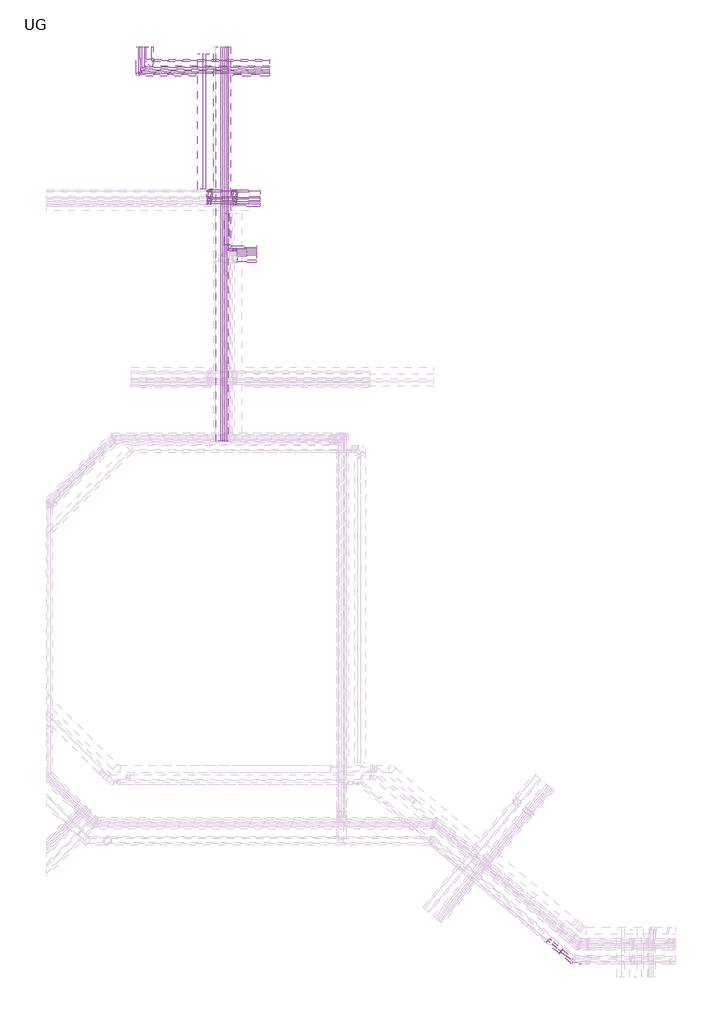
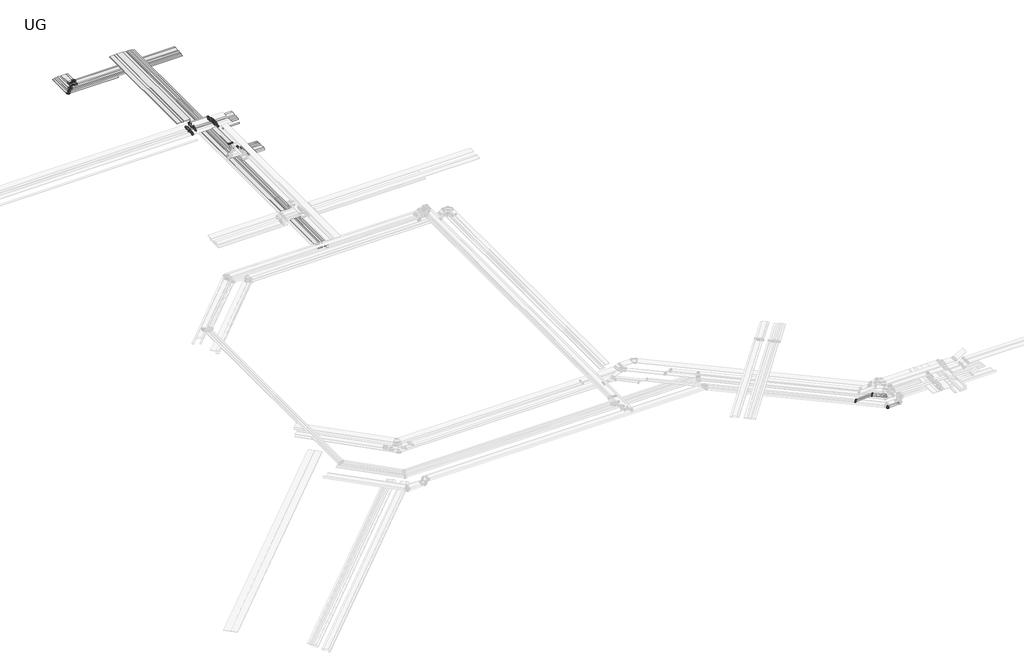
# One storey, part 6 of 14: 66 cable carrier segments, 41 cable carrier fittings.
"""IFC4 building model written with IfcOpenShell, lengths in millimetres."""

from ifc_helpers import new_model, si_unit, frame, origin, place, context, project, spatial, polyline, outline, extrude, transform, mapped, element, save
from components import cable_tray_horizontal_bend_c1312258, cable_tray_horizontal_bend_6035e229, cable_tray_horizontal_bend_3927de18, cable_tray_horizontal_bend_f58777bf, cable_tray_horizontal_bend_203efda3, cable_tray_vertical_inside_bend_327bc21f, cable_tray_vertical_inside_bend_de01723b, cable_tray_vertical_outside_bend_a3d3d836, cable_tray_vertical_outside_bend_fceaed45, cable_tray_vertical_outside_bend_b6a104fe, cable_tray_vertical_outside_bend_665fa45d

model = new_model("IFC4")

# Units and contexts
model_context = context("Model", 3, world=origin())
ifc_project = project(units=[si_unit("LENGTHUNIT", "METRE", prefix="MILLI")], contexts=[model_context])

# Site, building, storey
site = spatial("IfcSite", under=ifc_project)
building = spatial("IfcBuilding", under=site)
storey = spatial("IfcBuildingStorey", under=building, Name="UG", Elevation=7925.0)

# Cable carrier fittings
placement = place(None, origin())
cable_tray_horizontal_bend_shape = cable_tray_horizontal_bend_c1312258(model_context)
element("IfcCableCarrierFitting", 1, ObjectType="Cable Tray Horizontal Bend : ELEC_ELV_TKG_N2402", at=placement, inside=storey, context=model_context, shape_type="MappedRepresentation", body=[
    mapped(cable_tray_horizontal_bend_shape, transform((95888.1946429, 98224.9999992, 12425.0), x_axis=(0.0, -1.0, 0.0), y_axis=(1.0, 0.0, 0.0), z_axis=(0.0, 0.0, 1.0))),
])
element("IfcCableCarrierFitting", 2, ObjectType="Cable Tray Horizontal Bend : ELEC_ELV_TKG_N2402", at=placement, inside=storey, context=model_context, shape_type="MappedRepresentation", body=[
    mapped(cable_tray_horizontal_bend_shape, transform((95538.1946429, 97874.9999992, 12425.0), x_axis=(0.0, -1.0, 0.0), y_axis=(1.0, 0.0, 0.0), z_axis=(0.0, 0.0, 1.0))),
])
element("IfcCableCarrierFitting", 3, ObjectType="Cable Tray Horizontal Bend : ELEC_ELV_TKG_N2402", at=placement, inside=storey, context=model_context, shape_type="MappedRepresentation", body=[
    mapped(cable_tray_horizontal_bend_shape, transform((95388.1946429, 97724.9999992, 12425.0), x_axis=(0.0, -1.0, 0.0), y_axis=(1.0, 0.0, 0.0), z_axis=(0.0, 0.0, 1.0))),
])
cable_tray_horizontal_bend_2_shape = cable_tray_horizontal_bend_6035e229(model_context)
element("IfcCableCarrierFitting", 4, ObjectType="Cable Tray Horizontal Bend : ELEC_ELV_TKG_N2402", at=placement, inside=storey, context=model_context, shape_type="MappedRepresentation", body=[
    mapped(cable_tray_horizontal_bend_2_shape, transform((96513.1946429, 98849.9999992, 12450.0), x_axis=(0.0, -1.0, 0.0), y_axis=(1.0, 0.0, 0.0), z_axis=(0.0, 0.0, 1.0))),
])
element("IfcCableCarrierFitting", 5, ObjectType="Cable Tray Horizontal Bend : ELEC_ELV_TKG_N2402", at=placement, inside=storey, context=model_context, shape_type="MappedRepresentation", body=[
    mapped(cable_tray_horizontal_bend_2_shape, transform((95713.1946429, 98049.9999992, 12450.0), x_axis=(0.0, -1.0, 0.0), y_axis=(1.0, 0.0, 0.0), z_axis=(0.0, 0.0, 1.0))),
])
cable_tray_horizontal_bend_3_shape = cable_tray_horizontal_bend_3927de18(model_context)
element("IfcCableCarrierFitting", 6, ObjectType="Cable Tray Horizontal Bend : ELEC_ELV_CT_N2402", at=placement, inside=storey, context=model_context, shape_type="MappedRepresentation", body=[
    mapped(cable_tray_horizontal_bend_3_shape, transform((95213.1946429, 97549.9999992, 12400.0), x_axis=(0.0, -1.0, 0.0), y_axis=(1.0, 0.0, 0.0), z_axis=(0.0, 0.0, 1.0))),
])
cable_tray_horizontal_bend_4_shape = cable_tray_horizontal_bend_f58777bf(model_context)
element("IfcCableCarrierFitting", 7, ObjectType="Cable Tray Horizontal Bend : ELEC_ELV_TKG_N2402", at=placement, inside=storey, context=model_context, shape_type="MappedRepresentation", body=[
    mapped(cable_tray_horizontal_bend_4_shape, transform((96188.1946429, 98524.9999992, 12450.0), x_axis=(0.0, -1.0, 0.0), y_axis=(1.0, 0.0, 0.0), z_axis=(0.0, 0.0, 1.0))),
])
cable_tray_horizontal_bend_5_shape = cable_tray_horizontal_bend_203efda3(model_context)
element("IfcCableCarrierFitting", 8, ObjectType="Cable Tray Horizontal Bend : ELEC_ELV_TKG_N2402", at=placement, inside=storey, context=model_context, shape_type="MappedRepresentation", body=[
    mapped(cable_tray_horizontal_bend_5_shape, transform((132346.4635941, 21774.9736958, 12649.9630564), x_axis=(0.7660444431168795, -0.6427876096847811, -2.3400002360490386e-06), y_axis=(0.6427876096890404, 0.7660444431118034, 2.7887036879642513e-06), z_axis=(0.0, -3.6403941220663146e-06, 0.9999999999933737))),
])
cable_tray_vertical_inside_bend_shape = cable_tray_vertical_inside_bend_327bc21f(model_context)
element("IfcCableCarrierFitting", 9, ObjectType="Cable Tray Vertical Inside Bend : ELEC_SUB_CT_N2402", at=placement, inside=storey, context=model_context, shape_type="MappedRepresentation", body=[
    mapped(cable_tray_vertical_inside_bend_shape, transform((102874.6931236, 83079.7434943, 13300.0000003), x_axis=(0.0, 0.8660254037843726, -0.5000000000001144), y_axis=(0.0, 0.5000000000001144, 0.8660254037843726), z_axis=(1.0, 0.0, 0.0))),
])
cable_tray_vertical_inside_bend_2_shape = cable_tray_vertical_inside_bend_de01723b(model_context)
element("IfcCableCarrierFitting", 10, ObjectType="Cable Tray Vertical Inside Bend : ELEC_SUB_CT_N2402", at=placement, inside=storey, context=model_context, shape_type="MappedRepresentation", body=[
    mapped(cable_tray_vertical_inside_bend_2_shape, transform((130225.7373712, 23616.6575787, 12849.9999999), x_axis=(0.7660444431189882, -0.6427876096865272, 0.0), y_axis=(0.0, 0.0, 1.0), z_axis=(-0.6427876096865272, -0.7660444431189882, 0.0))),
])
element("IfcCableCarrierFitting", 11, ObjectType="Cable Tray Vertical Inside Bend : ELEC_SUB_CT_N2402", at=placement, inside=storey, context=model_context, shape_type="MappedRepresentation", body=[
    mapped(cable_tray_vertical_inside_bend_2_shape, transform((130370.3349689, 23788.9822852, 12849.9999999), x_axis=(-0.6634139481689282, 0.5566703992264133, -0.5000000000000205), y_axis=(-0.3830222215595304, 0.3213938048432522, 0.8660254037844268), z_axis=(0.6427876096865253, 0.7660444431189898, 0.0))),
])
cable_tray_vertical_outside_bend_shape = cable_tray_vertical_outside_bend_a3d3d836(model_context)
element("IfcCableCarrierFitting", 12, ObjectType="Cable Tray Vertical Outside Bend : ELEC_ELV_TKG_N2402", at=placement, inside=storey, context=model_context, shape_type="MappedRepresentation", body=[
    mapped(cable_tray_vertical_outside_bend_shape, transform((103684.3144981, 87396.9602128, 12725.0), x_axis=(-1.0, 0.0, 0.0), y_axis=(0.0, 0.0, 1.0), z_axis=(0.0, 1.0, 0.0))),
])
element("IfcCableCarrierFitting", 13, ObjectType="Cable Tray Vertical Outside Bend : ELEC_ELV_TKG_N2402", at=placement, inside=storey, context=model_context, shape_type="MappedRepresentation", body=[
    mapped(cable_tray_vertical_outside_bend_shape, transform((101234.3144981, 87396.9602128, 12725.0), x_axis=(1.0, 0.0, 0.0), y_axis=(0.0, 0.0, 1.0), z_axis=(0.0, -1.0, 0.0))),
])
element("IfcCableCarrierFitting", 14, ObjectType="Cable Tray Vertical Outside Bend : ELEC_ELV_TKG_N2402", at=placement, inside=storey, context=model_context, shape_type="MappedRepresentation", body=[
    mapped(cable_tray_vertical_outside_bend_shape, transform((101534.3144981, 87396.9602128, 13025.0), x_axis=(0.7071067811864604, 0.0, 0.7071067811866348), y_axis=(0.7071067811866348, 0.0, -0.7071067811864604), z_axis=(0.0, 1.0, 0.0))),
])
element("IfcCableCarrierFitting", 15, ObjectType="Cable Tray Vertical Outside Bend : ELEC_ELV_TKG_N2402", at=placement, inside=storey, context=model_context, shape_type="MappedRepresentation", body=[
    mapped(cable_tray_vertical_outside_bend_shape, transform((103384.3144981, 87396.9602128, 13025.0), x_axis=(-0.7071067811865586, 0.0, 0.7071067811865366), y_axis=(-0.7071067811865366, 0.0, -0.7071067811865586), z_axis=(0.0, -1.0, 0.0))),
])
cable_tray_vertical_outside_bend_2_shape = cable_tray_vertical_outside_bend_fceaed45(model_context)
element("IfcCableCarrierFitting", 16, ObjectType="Cable Tray Vertical Outside Bend : ELEC_ELV_TKG_N2402", at=placement, inside=storey, context=model_context, shape_type="MappedRepresentation", body=[
    mapped(cable_tray_vertical_outside_bend_2_shape, transform((103684.3144981, 82600.0, 12700.0), x_axis=(-1.0, 0.0, 0.0), y_axis=(0.0, 0.0, 1.0), z_axis=(0.0, 1.0, 0.0))),
])
element("IfcCableCarrierFitting", 17, ObjectType="Cable Tray Vertical Outside Bend : ELEC_ELV_TKG_N2402", at=placement, inside=storey, context=model_context, shape_type="MappedRepresentation", body=[
    mapped(cable_tray_vertical_outside_bend_2_shape, transform((103384.3144981, 82600.0, 13000.0), x_axis=(-0.7071067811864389, 0.0, 0.7071067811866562), y_axis=(-0.7071067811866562, 0.0, -0.7071067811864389), z_axis=(0.0, -1.0, 0.0))),
])
element("IfcCableCarrierFitting", 18, ObjectType="Cable Tray Vertical Outside Bend : ELEC_ELV_TKG_N2402", at=placement, inside=storey, context=model_context, shape_type="MappedRepresentation", body=[
    mapped(cable_tray_vertical_outside_bend_2_shape, transform((103384.3144981, 82750.0, 13000.0), x_axis=(-0.7071067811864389, 0.0, 0.7071067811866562), y_axis=(-0.7071067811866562, 0.0, -0.7071067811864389), z_axis=(0.0, -1.0, 0.0))),
])
element("IfcCableCarrierFitting", 19, ObjectType="Cable Tray Vertical Outside Bend : ELEC_ELV_TKG_N2402", at=placement, inside=storey, context=model_context, shape_type="MappedRepresentation", body=[
    mapped(cable_tray_vertical_outside_bend_2_shape, transform((103684.3144981, 82750.0, 12700.0), x_axis=(0.7071067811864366, 0.0, -0.7071067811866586), y_axis=(0.7071067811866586, 0.0, 0.7071067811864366), z_axis=(0.0, -1.0, 0.0))),
])
element("IfcCableCarrierFitting", 20, ObjectType="Cable Tray Vertical Outside Bend : ELEC_ELV_TKG_N2402", at=placement, inside=storey, context=model_context, shape_type="MappedRepresentation", body=[
    mapped(cable_tray_vertical_outside_bend_2_shape, transform((103684.3144981, 87096.9602128, 12700.0), x_axis=(-1.0, 0.0, 0.0), y_axis=(0.0, 0.0, 1.0), z_axis=(0.0, 1.0, 0.0))),
])
element("IfcCableCarrierFitting", 21, ObjectType="Cable Tray Vertical Outside Bend : ELEC_ELV_TKG_N2402", at=placement, inside=storey, context=model_context, shape_type="MappedRepresentation", body=[
    mapped(cable_tray_vertical_outside_bend_2_shape, transform((101234.3144981, 87096.9602128, 12700.0), x_axis=(1.0, 0.0, 0.0), y_axis=(0.0, 0.0, 1.0), z_axis=(0.0, -1.0, 0.0))),
])
element("IfcCableCarrierFitting", 22, ObjectType="Cable Tray Vertical Outside Bend : ELEC_ELV_TKG_N2402", at=placement, inside=storey, context=model_context, shape_type="MappedRepresentation", body=[
    mapped(cable_tray_vertical_outside_bend_2_shape, transform((101534.3144981, 87096.9602128, 13000.0), x_axis=(0.7071067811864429, 0.0, 0.7071067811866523), y_axis=(0.7071067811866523, 0.0, -0.7071067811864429), z_axis=(0.0, 1.0, 0.0))),
])
element("IfcCableCarrierFitting", 23, ObjectType="Cable Tray Vertical Outside Bend : ELEC_ELV_TKG_N2402", at=placement, inside=storey, context=model_context, shape_type="MappedRepresentation", body=[
    mapped(cable_tray_vertical_outside_bend_2_shape, transform((103384.3144981, 87096.9602128, 13000.0), x_axis=(-0.7071067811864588, 0.0, 0.7071067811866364), y_axis=(-0.7071067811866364, 0.0, -0.7071067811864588), z_axis=(0.0, -1.0, 0.0))),
])
element("IfcCableCarrierFitting", 24, ObjectType="Cable Tray Vertical Outside Bend : ELEC_ELV_TKG_N2402", at=placement, inside=storey, context=model_context, shape_type="MappedRepresentation", body=[
    mapped(cable_tray_vertical_outside_bend_2_shape, transform((103684.3144981, 86746.9602128, 12700.0), x_axis=(-1.0, 0.0, 0.0), y_axis=(0.0, 0.0, 1.0), z_axis=(0.0, 1.0, 0.0))),
])
element("IfcCableCarrierFitting", 25, ObjectType="Cable Tray Vertical Outside Bend : ELEC_ELV_TKG_N2402", at=placement, inside=storey, context=model_context, shape_type="MappedRepresentation", body=[
    mapped(cable_tray_vertical_outside_bend_2_shape, transform((101234.3144981, 86746.9602128, 12700.0), x_axis=(1.0, 0.0, 0.0), y_axis=(0.0, 0.0, 1.0), z_axis=(0.0, -1.0, 0.0))),
])
element("IfcCableCarrierFitting", 26, ObjectType="Cable Tray Vertical Outside Bend : ELEC_ELV_TKG_N2402", at=placement, inside=storey, context=model_context, shape_type="MappedRepresentation", body=[
    mapped(cable_tray_vertical_outside_bend_2_shape, transform((101534.3144981, 86746.9602128, 13000.0), x_axis=(0.7071067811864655, 0.0, 0.7071067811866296), y_axis=(0.7071067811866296, 0.0, -0.7071067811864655), z_axis=(0.0, 1.0, 0.0))),
])
element("IfcCableCarrierFitting", 27, ObjectType="Cable Tray Vertical Outside Bend : ELEC_ELV_TKG_N2402", at=placement, inside=storey, context=model_context, shape_type="MappedRepresentation", body=[
    mapped(cable_tray_vertical_outside_bend_2_shape, transform((103384.3144981, 86746.9602128, 13000.0), x_axis=(-0.7071067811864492, 0.0, 0.7071067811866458), y_axis=(-0.7071067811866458, 0.0, -0.7071067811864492), z_axis=(0.0, -1.0, 0.0))),
])
element("IfcCableCarrierFitting", 28, ObjectType="Cable Tray Vertical Outside Bend : ELEC_ELV_TKG_N2402", at=placement, inside=storey, context=model_context, shape_type="MappedRepresentation", body=[
    mapped(cable_tray_vertical_outside_bend_2_shape, transform((103684.3144981, 86596.9602128, 12700.0), x_axis=(-1.0, 0.0, 0.0), y_axis=(0.0, 0.0, 1.0), z_axis=(0.0, 1.0, 0.0))),
])
element("IfcCableCarrierFitting", 29, ObjectType="Cable Tray Vertical Outside Bend : ELEC_ELV_TKG_N2402", at=placement, inside=storey, context=model_context, shape_type="MappedRepresentation", body=[
    mapped(cable_tray_vertical_outside_bend_2_shape, transform((101192.8931419, 86596.9602128, 12700.0), x_axis=(1.0, 0.0, 0.0), y_axis=(0.0, 0.0, 1.0), z_axis=(0.0, -1.0, 0.0))),
])
element("IfcCableCarrierFitting", 30, ObjectType="Cable Tray Vertical Outside Bend : ELEC_ELV_TKG_N2402", at=placement, inside=storey, context=model_context, shape_type="MappedRepresentation", body=[
    mapped(cable_tray_vertical_outside_bend_2_shape, transform((101492.8931419, 86596.9602128, 13000.0), x_axis=(0.707106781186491, 0.0, 0.7071067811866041), y_axis=(0.7071067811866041, 0.0, -0.707106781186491), z_axis=(0.0, 1.0, 0.0))),
])
element("IfcCableCarrierFitting", 31, ObjectType="Cable Tray Vertical Outside Bend : ELEC_ELV_TKG_N2402", at=placement, inside=storey, context=model_context, shape_type="MappedRepresentation", body=[
    mapped(cable_tray_vertical_outside_bend_2_shape, transform((103384.3144981, 86596.9602128, 13000.0), x_axis=(-0.7071067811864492, 0.0, 0.7071067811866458), y_axis=(-0.7071067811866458, 0.0, -0.7071067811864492), z_axis=(0.0, -1.0, 0.0))),
])
cable_tray_vertical_outside_bend_3_shape = cable_tray_vertical_outside_bend_b6a104fe(model_context)
element("IfcCableCarrierFitting", 32, ObjectType="Cable Tray Vertical Outside Bend : ELEC_ELV_TKG_N2402", at=placement, inside=storey, context=model_context, shape_type="MappedRepresentation", body=[
    mapped(cable_tray_vertical_outside_bend_3_shape, transform((103684.3144981, 87721.9602128, 12725.0), x_axis=(-1.0, 0.0, 0.0), y_axis=(0.0, 0.0, 1.0), z_axis=(0.0, 1.0, 0.0))),
])
element("IfcCableCarrierFitting", 33, ObjectType="Cable Tray Vertical Outside Bend : ELEC_ELV_TKG_N2402", at=placement, inside=storey, context=model_context, shape_type="MappedRepresentation", body=[
    mapped(cable_tray_vertical_outside_bend_3_shape, transform((101234.3144981, 87721.9602128, 12725.0), x_axis=(1.0, 0.0, 0.0), y_axis=(0.0, 0.0, 1.0), z_axis=(0.0, -1.0, 0.0))),
])
element("IfcCableCarrierFitting", 34, ObjectType="Cable Tray Vertical Outside Bend : ELEC_ELV_TKG_N2402", at=placement, inside=storey, context=model_context, shape_type="MappedRepresentation", body=[
    mapped(cable_tray_vertical_outside_bend_3_shape, transform((101534.3144981, 87721.9602128, 13025.0), x_axis=(0.7071067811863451, 0.0, 0.7071067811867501), y_axis=(0.7071067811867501, 0.0, -0.7071067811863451), z_axis=(0.0, 1.0, 0.0))),
])
element("IfcCableCarrierFitting", 35, ObjectType="Cable Tray Vertical Outside Bend : ELEC_ELV_TKG_N2402", at=placement, inside=storey, context=model_context, shape_type="MappedRepresentation", body=[
    mapped(cable_tray_vertical_outside_bend_3_shape, transform((103384.3144981, 87721.9602128, 13025.0), x_axis=(-0.7071067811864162, 0.0, 0.707106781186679), y_axis=(-0.707106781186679, 0.0, -0.7071067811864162), z_axis=(0.0, -1.0, 0.0))),
])
element("IfcCableCarrierFitting", 36, ObjectType="Cable Tray Vertical Outside Bend : ELEC_ELV_TKG_N2402", at=placement, inside=storey, context=model_context, shape_type="MappedRepresentation", body=[
    mapped(cable_tray_vertical_outside_bend_3_shape, transform((103684.3144981, 86921.9602128, 12725.0), x_axis=(-1.0, 0.0, 0.0), y_axis=(0.0, 0.0, 1.0), z_axis=(0.0, 1.0, 0.0))),
])
element("IfcCableCarrierFitting", 37, ObjectType="Cable Tray Vertical Outside Bend : ELEC_ELV_TKG_N2402", at=placement, inside=storey, context=model_context, shape_type="MappedRepresentation", body=[
    mapped(cable_tray_vertical_outside_bend_3_shape, transform((101234.3144981, 86921.9602128, 12725.0), x_axis=(1.0, 0.0, 0.0), y_axis=(0.0, 0.0, 1.0), z_axis=(0.0, -1.0, 0.0))),
])
element("IfcCableCarrierFitting", 38, ObjectType="Cable Tray Vertical Outside Bend : ELEC_ELV_TKG_N2402", at=placement, inside=storey, context=model_context, shape_type="MappedRepresentation", body=[
    mapped(cable_tray_vertical_outside_bend_3_shape, transform((101534.3144981, 86921.9602128, 13025.0), x_axis=(0.707106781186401, 0.0, 0.7071067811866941), y_axis=(0.7071067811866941, 0.0, -0.707106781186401), z_axis=(0.0, 1.0, 0.0))),
])
element("IfcCableCarrierFitting", 39, ObjectType="Cable Tray Vertical Outside Bend : ELEC_ELV_TKG_N2402", at=placement, inside=storey, context=model_context, shape_type="MappedRepresentation", body=[
    mapped(cable_tray_vertical_outside_bend_3_shape, transform((103384.3144981, 86921.9602128, 13025.0), x_axis=(-0.7071067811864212, 0.0, 0.7071067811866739), y_axis=(-0.7071067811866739, 0.0, -0.7071067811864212), z_axis=(0.0, -1.0, 0.0))),
])
cable_tray_vertical_outside_bend_4_shape = cable_tray_vertical_outside_bend_665fa45d(model_context)
element("IfcCableCarrierFitting", 40, ObjectType="Cable Tray Vertical Outside Bend : ELEC_SUB_CT_N2402", at=placement, inside=storey, context=model_context, shape_type="MappedRepresentation", body=[
    mapped(cable_tray_vertical_outside_bend_4_shape, transform((131317.0002368, 22700.9793106, 13672.4599954), x_axis=(0.6634139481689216, -0.5566703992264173, 0.5000000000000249), y_axis=(0.38302222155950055, -0.3213938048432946, -0.8660254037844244), z_axis=(0.6427876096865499, 0.7660444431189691, 0.0))),
])
element("IfcCableCarrierFitting", 41, ObjectType="Cable Tray Vertical Outside Bend : ELEC_SUB_CT_N2402", at=placement, inside=storey, context=model_context, shape_type="MappedRepresentation", body=[
    mapped(cable_tray_vertical_outside_bend_4_shape, transform((131461.5978345, 22873.3040171, 13672.4599954), x_axis=(0.6634139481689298, -0.5566703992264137, 0.5000000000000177), y_axis=(0.3830222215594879, -0.3213938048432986, -0.8660254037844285), z_axis=(0.6427876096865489, 0.7660444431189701, 0.0))),
])

# Cable carrier segments
element("IfcCableCarrierSegment", 42, ObjectType="ELEC_ELV_TKG_N2402", at=placement, inside=storey, context=model_context, shape_type="SweptSolid", body=[
    extrude(outline(polyline([(101934.3144981, 100000.0), (102334.3144981, 100000.0), (102334.3144981, 66315.1193598), (101934.3144981, 66315.1193598), (101934.3144981, 100000.0)])), frame((0.0, 0.0, 12650.0), z_axis=(0.0, 0.0, 1.0), x_axis=(1.0, 0.0, 0.0)), (0.0, 0.0, 1.0), 150.0),
])
element("IfcCableCarrierSegment", 43, ObjectType="ELEC_ELV_TKG_N2402", at=placement, inside=storey, context=model_context, shape_type="SweptSolid", body=[
    extrude(outline(polyline([(102484.3144981, 66315.1193598), (102384.3144981, 66315.1193598), (102384.3144981, 100000.0), (102484.3144981, 100000.0), (102484.3144981, 66315.1193598)])), frame((0.0, 0.0, 12650.0), z_axis=(0.0, 0.0, 1.0), x_axis=(1.0, 0.0, 0.0)), (0.0, 0.0, 1.0), 100.0),
])
element("IfcCableCarrierSegment", 44, ObjectType="ELEC_ELV_TKG_N2402", at=placement, inside=storey, context=model_context, shape_type="SweptSolid", body=[
    extrude(outline(polyline([(102534.3144981, 100000.0), (102684.3144981, 100000.0), (102684.3144981, 66315.1193598), (102534.3144981, 66315.1193598), (102534.3144981, 100000.0)])), frame((0.0, 0.0, 12650.0), z_axis=(0.0, 0.0, 1.0), x_axis=(1.0, 0.0, 0.0)), (0.0, 0.0, 1.0), 150.0),
])
element("IfcCableCarrierSegment", 45, ObjectType="ELEC_ELV_TKG_N2402", at=placement, inside=storey, context=model_context, shape_type="SweptSolid", body=[
    extrude(outline(polyline([(102834.3144981, 66315.1193598), (102734.3144981, 66315.1193598), (102734.3144981, 100000.0), (102834.3144981, 100000.0), (102834.3144981, 66315.1193598)])), frame((0.0, 0.0, 12650.0), z_axis=(0.0, 0.0, 1.0), x_axis=(1.0, 0.0, 0.0)), (0.0, 0.0, 1.0), 100.0),
])
element("IfcCableCarrierSegment", 46, ObjectType="ELEC_ELV_TKG_N2402", at=placement, inside=storey, context=model_context, shape_type="SweptSolid", body=[
    extrude(outline(polyline([(102884.3144981, 100000.0), (102984.3144981, 100000.0), (102984.3144981, 66315.1193598), (102884.3144981, 66315.1193598), (102884.3144981, 100000.0)])), frame((0.0, 0.0, 12650.0), z_axis=(0.0, 0.0, 1.0), x_axis=(1.0, 0.0, 0.0)), (0.0, 0.0, 1.0), 100.0),
])
element("IfcCableCarrierSegment", 47, ObjectType="ELEC_ELV_CT_N2402", at=placement, inside=storey, context=model_context, shape_type="SweptSolid", body=[
    extrude(outline(polyline([(103184.3144981, 83050.0), (103034.3144981, 83050.0), (103034.3144981, 100000.0), (103184.3144981, 100000.0), (103184.3144981, 83050.0)])), frame((0.0, 0.0, 12650.0), z_axis=(0.0, 0.0, 1.0), x_axis=(1.0, 0.0, 0.0)), (0.0, 0.0, 1.0), 50.0),
])
element("IfcCableCarrierSegment", 48, ObjectType="ELEC_ELV_TKG_N2402", at=placement, inside=storey, context=model_context, shape_type="SweptSolid", body=[
    extrude(outline(polyline([(105405.3443323, 81700.0), (105405.3443323, 81550.0), (103746.4465325, 81550.0), (103746.4465325, 81700.0), (105405.3443323, 81700.0)])), frame((0.0, 0.0, 12650.0), z_axis=(0.0, 0.0, 1.0), x_axis=(1.0, 0.0, 0.0)), (0.0, 0.0, 1.0), 150.0),
])
element("IfcCableCarrierSegment", 49, ObjectType="ELEC_ELV_TKG_N2402", at=placement, inside=storey, context=model_context, shape_type="SweptSolid", body=[
    extrude(outline(polyline([(105405.3443323, 82150.0), (105405.3443323, 81750.0), (103798.2232278, 81750.0), (103798.2232278, 82150.0), (105405.3443323, 82150.0)])), frame((0.0, 0.0, 12650.0), z_axis=(0.0, 0.0, 1.0), x_axis=(1.0, 0.0, 0.0)), (0.0, 0.0, 1.0), 150.0),
])
element("IfcCableCarrierSegment", 50, ObjectType="ELEC_ELV_TKG_N2402", at=placement, inside=storey, context=model_context, shape_type="SweptSolid", body=[
    extrude(outline(polyline([(103725.7358544, 82200.0), (103725.7358544, 82300.0), (105405.3443323, 82300.0), (105405.3443323, 82200.0), (103725.7358544, 82200.0)])), frame((0.0, 0.0, 12650.0), z_axis=(0.0, 0.0, 1.0), x_axis=(1.0, 0.0, 0.0)), (0.0, 0.0, 1.0), 100.0),
])
element("IfcCableCarrierSegment", 51, ObjectType="ELEC_ELV_TKG_N2402", at=placement, inside=storey, context=model_context, shape_type="SweptSolid", body=[
    extrude(outline(polyline([(105405.3443323, 82500.0), (105405.3443323, 82350.0), (103746.4465325, 82350.0), (103746.4465325, 82500.0), (105405.3443323, 82500.0)])), frame((0.0, 0.0, 12650.0), z_axis=(0.0, 0.0, 1.0), x_axis=(1.0, 0.0, 0.0)), (0.0, 0.0, 1.0), 150.0),
])
element("IfcCableCarrierSegment", 52, ObjectType="ELEC_ELV_TKG_N2402", at=placement, inside=storey, context=model_context, shape_type="SweptSolid", body=[
    extrude(outline(polyline([(103725.7358544, 82550.0), (103725.7358544, 82650.0), (105405.3443323, 82650.0), (105405.3443323, 82550.0), (103725.7358544, 82550.0)])), frame((0.0, 0.0, 12650.0), z_axis=(0.0, 0.0, 1.0), x_axis=(1.0, 0.0, 0.0)), (0.0, 0.0, 1.0), 100.0),
])
element("IfcCableCarrierSegment", 53, ObjectType="ELEC_ELV_TKG_N2402", at=placement, inside=storey, context=model_context, shape_type="SweptSolid", body=[
    extrude(outline(polyline([(103725.7358544, 82700.0), (103725.7358544, 82800.0), (105405.3443323, 82800.0), (105405.3443323, 82700.0), (103725.7358544, 82700.0)])), frame((0.0, 0.0, 12650.0), z_axis=(0.0, 0.0, 1.0), x_axis=(1.0, 0.0, 0.0)), (0.0, 0.0, 1.0), 100.0),
])
element("IfcCableCarrierSegment", 54, ObjectType="ELEC_ELV_CT_N2402", at=placement, inside=storey, context=model_context, shape_type="SweptSolid", body=[
    extrude(outline(polyline([(0.0, -150.0), (0.0, 0.0), (2171.0298342, 0.0), (2171.0298342, -150.0), (0.0, -150.0)])), frame((103234.3144981, 83000.0, 12650.0), z_axis=(1.9592094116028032e-12, 0.0, 1.0), x_axis=(1.0, 0.0, -1.9592094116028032e-12)), (0.0, 0.0, 1.0), 50.0),
])
element("IfcCableCarrierSegment", 55, ObjectType="ELEC_ELV_TKG_N2402", at=placement, inside=storey, context=model_context, shape_type="SweptSolid", body=[
    extrude(outline(polyline([(103725.7358544, 87046.9602128), (103725.7358544, 87146.9602128), (105708.4044526, 87146.9602128), (105708.4044526, 87046.9602128), (103725.7358544, 87046.9602128)])), frame((0.0, 0.0, 12650.0), z_axis=(0.0, 0.0, 1.0), x_axis=(1.0, 0.0, 0.0)), (0.0, 0.0, 1.0), 100.0),
])
element("IfcCableCarrierSegment", 56, ObjectType="ELEC_ELV_TKG_N2402", at=placement, inside=storey, context=model_context, shape_type="SweptSolid", body=[
    extrude(outline(polyline([(103725.7358544, 86696.9602128), (103725.7358544, 86796.9602128), (105708.4044526, 86796.9602128), (105708.4044526, 86696.9602128), (103725.7358544, 86696.9602128)])), frame((0.0, 0.0, 12650.0), z_axis=(0.0, 0.0, 1.0), x_axis=(1.0, 0.0, 0.0)), (0.0, 0.0, 1.0), 100.0),
])
element("IfcCableCarrierSegment", 57, ObjectType="ELEC_ELV_CT_N2402", at=placement, inside=storey, context=model_context, shape_type="SweptSolid", body=[
    extrude(outline(polyline([(103384.3144981, 86346.9602128), (103384.3144981, 86496.9602128), (105708.4044526, 86496.9602128), (105708.4044526, 86346.9602128), (103384.3144981, 86346.9602128)])), frame((0.0, 0.0, 12375.0), z_axis=(0.0, 0.0, 1.0), x_axis=(1.0, 0.0, 0.0)), (0.0, 0.0, 1.0), 50.0),
])
element("IfcCableCarrierSegment", 58, ObjectType="ELEC_ELV_TKG_N2402", at=placement, inside=storey, context=model_context, shape_type="SweptSolid", body=[
    extrude(outline(polyline([(106503.5142559, 98924.9999992), (106503.5142559, 98774.9999992), (96663.1946429, 98774.9999992), (96663.1946429, 98924.9999992), (106503.5142559, 98924.9999992)])), frame((0.0, 0.0, 12375.0), z_axis=(0.0, 0.0, 1.0), x_axis=(1.0, 0.0, 0.0)), (0.0, 0.0, 1.0), 150.0),
])
element("IfcCableCarrierSegment", 59, ObjectType="ELEC_ELV_TKG_N2402", at=placement, inside=storey, context=model_context, shape_type="SweptSolid", body=[
    extrude(outline(polyline([(106503.5142559, 98724.9999992), (106503.5142559, 98324.9999992), (96588.1946429, 98324.9999992), (96588.1946429, 98724.9999992), (106503.5142559, 98724.9999992)])), frame((0.0, 0.0, 12375.0), z_axis=(0.0, 0.0, 1.0), x_axis=(1.0, 0.0, 0.0)), (0.0, 0.0, 1.0), 150.0),
])
element("IfcCableCarrierSegment", 60, ObjectType="ELEC_ELV_TKG_N2402", at=placement, inside=storey, context=model_context, shape_type="SweptSolid", body=[
    extrude(outline(polyline([(95988.1946429, 98174.9999992), (95988.1946429, 98274.9999992), (106503.5142559, 98274.9999992), (106503.5142559, 98174.9999992), (95988.1946429, 98174.9999992)])), frame((0.0, 0.0, 12375.0), z_axis=(0.0, 0.0, 1.0), x_axis=(1.0, 0.0, 0.0)), (0.0, 0.0, 1.0), 100.0),
])
element("IfcCableCarrierSegment", 61, ObjectType="ELEC_ELV_TKG_N2402", at=placement, inside=storey, context=model_context, shape_type="SweptSolid", body=[
    extrude(outline(polyline([(106503.5142559, 98124.9999992), (106503.5142559, 97974.9999992), (95863.1946429, 97974.9999992), (95863.1946429, 98124.9999992), (106503.5142559, 98124.9999992)])), frame((0.0, 0.0, 12375.0), z_axis=(0.0, 0.0, 1.0), x_axis=(1.0, 0.0, 0.0)), (0.0, 0.0, 1.0), 150.0),
])
element("IfcCableCarrierSegment", 62, ObjectType="ELEC_ELV_TKG_N2402", at=placement, inside=storey, context=model_context, shape_type="SweptSolid", body=[
    extrude(outline(polyline([(95638.1946429, 97824.9999992), (95638.1946429, 97924.9999992), (106503.5142559, 97924.9999992), (106503.5142559, 97824.9999992), (95638.1946429, 97824.9999992)])), frame((0.0, 0.0, 12375.0), z_axis=(0.0, 0.0, 1.0), x_axis=(1.0, 0.0, 0.0)), (0.0, 0.0, 1.0), 100.0),
])
element("IfcCableCarrierSegment", 63, ObjectType="ELEC_ELV_TKG_N2402", at=placement, inside=storey, context=model_context, shape_type="SweptSolid", body=[
    extrude(outline(polyline([(106503.5142559, 97774.9999992), (106503.5142559, 97674.9999992), (95488.1946429, 97674.9999992), (95488.1946429, 97774.9999992), (106503.5142559, 97774.9999992)])), frame((0.0, 0.0, 12375.0), z_axis=(0.0, 0.0, 1.0), x_axis=(1.0, 0.0, 0.0)), (0.0, 0.0, 1.0), 100.0),
])
element("IfcCableCarrierSegment", 64, ObjectType="ELEC_ELV_CT_N2402", at=placement, inside=storey, context=model_context, shape_type="SweptSolid", body=[
    extrude(outline(polyline([(103384.3144981, 97474.9999992), (103384.3144981, 97624.9999992), (106503.5142559, 97624.9999992), (106503.5142559, 97474.9999992), (103384.3144981, 97474.9999992)])), frame((0.0, 0.0, 12375.0), z_axis=(0.0, 0.0, 1.0), x_axis=(1.0, 0.0, 0.0)), (0.0, 0.0, 1.0), 50.0),
])
element("IfcCableCarrierSegment", 65, ObjectType="ELEC_ELV_TKG_N2402", at=placement, inside=storey, context=model_context, shape_type="SweptSolid", body=[
    extrude(outline(polyline([(96588.1946429, 98999.9999992), (96438.1946429, 98999.9999992), (96438.1946429, 100000.0), (96588.1946429, 100000.0), (96588.1946429, 98999.9999992)])), frame((0.0, 0.0, 12375.0), z_axis=(0.0, 0.0, 1.0), x_axis=(1.0, 0.0, 0.0)), (0.0, 0.0, 1.0), 150.0),
])
element("IfcCableCarrierSegment", 66, ObjectType="ELEC_ELV_TKG_N2402", at=placement, inside=storey, context=model_context, shape_type="SweptSolid", body=[
    extrude(outline(polyline([(96388.1946429, 98924.9999992), (95988.1946429, 98924.9999992), (95988.1946429, 100000.0), (96388.1946429, 100000.0), (96388.1946429, 98924.9999992)])), frame((0.0, 0.0, 12375.0), z_axis=(0.0, 0.0, 1.0), x_axis=(1.0, 0.0, 0.0)), (0.0, 0.0, 1.0), 150.0),
])
element("IfcCableCarrierSegment", 67, ObjectType="ELEC_ELV_TKG_N2402", at=placement, inside=storey, context=model_context, shape_type="SweptSolid", body=[
    extrude(outline(polyline([(95938.1946429, 98324.9999992), (95838.1946429, 98324.9999992), (95838.1946429, 100000.0), (95938.1946429, 100000.0), (95938.1946429, 98324.9999992)])), frame((0.0, 0.0, 12375.0), z_axis=(0.0, 0.0, 1.0), x_axis=(1.0, 0.0, 0.0)), (0.0, 0.0, 1.0), 100.0),
])
element("IfcCableCarrierSegment", 68, ObjectType="ELEC_ELV_TKG_N2402", at=placement, inside=storey, context=model_context, shape_type="SweptSolid", body=[
    extrude(outline(polyline([(95788.1946429, 98199.9999992), (95638.1946429, 98199.9999992), (95638.1946429, 100000.0), (95788.1946429, 100000.0), (95788.1946429, 98199.9999992)])), frame((0.0, 0.0, 12375.0), z_axis=(0.0, 0.0, 1.0), x_axis=(1.0, 0.0, 0.0)), (0.0, 0.0, 1.0), 150.0),
])
element("IfcCableCarrierSegment", 69, ObjectType="ELEC_ELV_TKG_N2402", at=placement, inside=storey, context=model_context, shape_type="SweptSolid", body=[
    extrude(outline(polyline([(95588.1946429, 97974.9999992), (95488.1946429, 97974.9999992), (95488.1946429, 100000.0), (95588.1946429, 100000.0), (95588.1946429, 97974.9999992)])), frame((0.0, 0.0, 12375.0), z_axis=(0.0, 0.0, 1.0), x_axis=(1.0, 0.0, 0.0)), (0.0, 0.0, 1.0), 100.0),
])
element("IfcCableCarrierSegment", 70, ObjectType="ELEC_ELV_TKG_N2402", at=placement, inside=storey, context=model_context, shape_type="SweptSolid", body=[
    extrude(outline(polyline([(95438.1946429, 97824.9999992), (95338.1946429, 97824.9999992), (95338.1946429, 100000.0), (95438.1946429, 100000.0), (95438.1946429, 97824.9999992)])), frame((0.0, 0.0, 12375.0), z_axis=(0.0, 0.0, 1.0), x_axis=(1.0, 0.0, 0.0)), (0.0, 0.0, 1.0), 100.0),
])
element("IfcCableCarrierSegment", 71, ObjectType="ELEC_ELV_CT_N2402", at=placement, inside=storey, context=model_context, shape_type="SweptSolid", body=[
    extrude(outline(polyline([(95288.1946429, 97699.9999992), (95138.1946429, 97699.9999992), (95138.1946429, 100000.0), (95288.1946429, 100000.0), (95288.1946429, 97699.9999992)])), frame((0.0, 0.0, 12375.0), z_axis=(0.0, 0.0, 1.0), x_axis=(1.0, 0.0, 0.0)), (0.0, 0.0, 1.0), 50.0),
])
element("IfcCableCarrierSegment", 72, ObjectType="ELEC_ELV_TKG_N2402", at=placement, inside=storey, context=model_context, shape_type="SweptSolid", body=[
    extrude(outline(polyline([(105708.4044526, 87796.9602128), (105708.4044526, 87646.9602128), (103746.4465325, 87646.9602128), (103746.4465325, 87796.9602128), (105708.4044526, 87796.9602128)])), frame((0.0, 0.0, 12650.0), z_axis=(0.0, 0.0, 1.0), x_axis=(1.0, 0.0, 0.0)), (0.0, 0.0, 1.0), 150.0),
])
element("IfcCableCarrierSegment", 73, ObjectType="ELEC_ELV_TKG_N2402", at=placement, inside=storey, context=model_context, shape_type="SweptSolid", body=[
    extrude(outline(polyline([(105708.4044526, 87596.9602128), (105708.4044526, 87196.9602128), (103798.2232278, 87196.9602128), (103798.2232278, 87596.9602128), (105708.4044526, 87596.9602128)])), frame((0.0, 0.0, 12650.0), z_axis=(0.0, 0.0, 1.0), x_axis=(1.0, 0.0, 0.0)), (0.0, 0.0, 1.0), 150.0),
])
element("IfcCableCarrierSegment", 74, ObjectType="ELEC_ELV_TKG_N2402", at=placement, inside=storey, context=model_context, shape_type="SweptSolid", body=[
    extrude(outline(polyline([(105708.4044526, 86996.9602128), (105708.4044526, 86846.9602128), (103746.4465325, 86846.9602128), (103746.4465325, 86996.9602128), (105708.4044526, 86996.9602128)])), frame((0.0, 0.0, 12650.0), z_axis=(0.0, 0.0, 1.0), x_axis=(1.0, 0.0, 0.0)), (0.0, 0.0, 1.0), 150.0),
])
element("IfcCableCarrierSegment", 75, ObjectType="ELEC_ELV_TKG_N2402", at=placement, inside=storey, context=model_context, shape_type="SweptSolid", body=[
    extrude(outline(polyline([(103725.7358544, 86546.9602128), (103725.7358544, 86646.9602128), (105708.4044526, 86646.9602128), (105708.4044526, 86546.9602128), (103725.7358544, 86546.9602128)])), frame((0.0, 0.0, 12650.0), z_axis=(0.0, 0.0, 1.0), x_axis=(1.0, 0.0, 0.0)), (0.0, 0.0, 1.0), 100.0),
])
element("IfcCableCarrierSegment", 76, ObjectType="ELEC_SUB_CT_N2402", at=placement, inside=storey, context=model_context, shape_type="SweptSolid", body=[
    extrude(outline(polyline([(100384.314917, 99400.0), (100784.314917, 99400.0), (100784.314917, 87843.1383103), (100384.314917, 87843.1383103), (100384.314917, 99400.0)])), frame((0.0, 0.0, 13275.0), z_axis=(0.0, 0.0, 1.0), x_axis=(1.0, 0.0, 0.0)), (0.0, 0.0, 1.0), 50.0),
])
element("IfcCableCarrierSegment", 77, ObjectType="ELEC_SUB_CT_N2402", at=placement, inside=storey, context=model_context, shape_type="SweptSolid", body=[
    extrude(outline(polyline([(100834.314917, 99400.0), (101034.314917, 99400.0), (101034.314917, 87843.1383103), (100834.314917, 87843.1383103), (100834.314917, 99400.0)])), frame((0.0, 0.0, 13275.0), z_axis=(0.0, 0.0, 1.0), x_axis=(1.0, 0.0, 0.0)), (0.0, 0.0, 1.0), 50.0),
])
element("IfcCableCarrierSegment", 78, ObjectType="ELEC_SUB_CT_N2402", at=placement, inside=storey, context=model_context, shape_type="SweptSolid", body=[
    extrude(outline(polyline([(101084.3144981, 99400.0), (101684.3144981, 99400.0), (101684.3144981, 87843.1383103), (101084.3144981, 87843.1383103), (101084.3144981, 99400.0)])), frame((0.0, 0.0, 13275.0), z_axis=(0.0, 0.0, 1.0), x_axis=(1.0, 0.0, 0.0)), (0.0, 0.0, 1.0), 50.0),
])
element("IfcCableCarrierSegment", 79, ObjectType="ELEC_SUB_CT_N2402", at=placement, inside=storey, context=model_context, shape_type="SweptSolid", body=[
    extrude(outline(polyline([(103074.6931236, 83140.0320626), (102674.6931236, 83140.0320626), (102674.6931236, 85793.3333333), (103074.6931236, 85793.3333333), (103074.6931236, 83140.0320626)])), frame((0.0, 0.0, 13275.0000003), z_axis=(0.0, 0.0, 1.0), x_axis=(1.0, 0.0, 0.0)), (0.0, 0.0, 1.0), 50.0),
])
element("IfcCableCarrierSegment", 80, ObjectType="ELEC_ELV_TKG_N2402", at=placement, inside=storey, context=model_context, shape_type="SweptSolid", body=[
    extrude(outline(polyline([(0.0, -100.0), (0.0, 0.0), (341.4213563, 0.0), (341.4213563, -100.0), (0.0, -100.0)])), frame((103619.6698372, 82550.0, 12693.9339828), z_axis=(0.7071067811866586, 0.0, 0.7071067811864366), x_axis=(-0.7071067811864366, 0.0, 0.7071067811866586)), (0.0, 0.0, 1.0), 100.0),
])
element("IfcCableCarrierSegment", 81, ObjectType="ELEC_ELV_TKG_N2402", at=placement, inside=storey, context=model_context, shape_type="SweptSolid", body=[
    extrude(outline(polyline([(103342.8931419, 82650.0), (103342.8931419, 82550.0), (102884.3144981, 82550.0), (102884.3144981, 82650.0), (103342.8931419, 82650.0)])), frame((0.0, 0.0, 12950.0), z_axis=(0.0, 0.0, 1.0), x_axis=(1.0, 0.0, 0.0)), (0.0, 0.0, 1.0), 100.0),
])
element("IfcCableCarrierSegment", 82, ObjectType="ELEC_ELV_TKG_N2402", at=placement, inside=storey, context=model_context, shape_type="SweptSolid", body=[
    extrude(outline(polyline([(0.0, -100.0), (0.0, 0.0), (341.4213563, 0.0), (341.4213563, -100.0), (0.0, -100.0)])), frame((103619.6698372, 82700.0, 12693.9339828), z_axis=(0.7071067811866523, 0.0, 0.7071067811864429), x_axis=(-0.7071067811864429, 0.0, 0.7071067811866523)), (0.0, 0.0, 1.0), 100.0),
])
element("IfcCableCarrierSegment", 83, ObjectType="ELEC_ELV_TKG_N2402", at=placement, inside=storey, context=model_context, shape_type="SweptSolid", body=[
    extrude(outline(polyline([(103342.8931419, 82800.0), (103342.8931419, 82700.0), (103034.3144981, 82700.0), (103034.3144981, 82800.0), (103342.8931419, 82800.0)])), frame((0.0, 0.0, 12950.0), z_axis=(0.0, 0.0, 1.0), x_axis=(1.0, 0.0, 0.0)), (0.0, 0.0, 1.0), 100.0),
])
element("IfcCableCarrierSegment", 84, ObjectType="ELEC_ELV_CT_N2402", at=placement, inside=storey, context=model_context, shape_type="SweptSolid", body=[
    extrude(outline(polyline([(95363.1946429, 97474.9999992), (95363.1946429, 97624.9999992), (100184.314917, 97624.9999992), (100184.314917, 97474.9999992), (95363.1946429, 97474.9999992)])), frame((0.0, 0.0, 12375.0), z_axis=(0.0, 0.0, 1.0), x_axis=(1.0, 0.0, 0.0)), (0.0, 0.0, 1.0), 50.0),
])
element("IfcCableCarrierSegment", 85, ObjectType="ELEC_ELV_TKG_N2402", at=placement, inside=storey, context=model_context, shape_type="SweptSolid", body=[
    extrude(outline(polyline([(0.0, -150.0), (0.0, 0.0), (300.0, 0.0), (300.0, -150.0), (0.0, -150.0)])), frame((103587.3475067, 87646.9602128, 12715.9009742), z_axis=(0.7071067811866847, 0.0, 0.7071067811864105), x_axis=(-0.7071067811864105, 0.0, 0.7071067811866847)), (0.0, 0.0, 1.0), 150.0),
])
element("IfcCableCarrierSegment", 86, ObjectType="ELEC_ELV_TKG_N2402", at=placement, inside=storey, context=model_context, shape_type="SweptSolid", body=[
    extrude(outline(polyline([(101596.4465325, 87646.9602128), (101596.4465325, 87796.9602128), (103322.1824638, 87796.9602128), (103322.1824638, 87646.9602128), (101596.4465325, 87646.9602128)])), frame((0.0, 0.0, 12950.0), z_axis=(0.0, 0.0, 1.0), x_axis=(1.0, 0.0, 0.0)), (0.0, 0.0, 1.0), 150.0),
])
element("IfcCableCarrierSegment", 87, ObjectType="ELEC_ELV_TKG_N2402", at=placement, inside=storey, context=model_context, shape_type="SweptSolid", body=[
    extrude(outline(polyline([(75.0, 31.0660172), (-75.0, 31.0660172), (-75.0, 181.0660172), (75.0, 181.0660172), (75.0, 31.0660172)])), frame((101278.248481, 87615.8941956, 12768.9339828), z_axis=(0.7071067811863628, 0.0, 0.7071067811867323), x_axis=(0.7071067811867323, 0.0, -0.7071067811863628)), (0.0, 0.0, 1.0), 300.0),
])
element("IfcCableCarrierSegment", 88, ObjectType="ELEC_ELV_TKG_N2402", at=placement, inside=storey, context=model_context, shape_type="SweptSolid", body=[
    extrude(outline(polyline([(0.0, -400.0), (0.0, 0.0), (196.4466094, 0.0), (196.4466094, -400.0), (0.0, -400.0)])), frame((103550.7358544, 87196.9602128, 12752.5126266), z_axis=(0.7071067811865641, 0.0, 0.707106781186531), x_axis=(-0.707106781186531, 0.0, 0.7071067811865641)), (0.0, 0.0, 1.0), 150.0),
])
element("IfcCableCarrierSegment", 89, ObjectType="ELEC_ELV_TKG_N2402", at=placement, inside=storey, context=model_context, shape_type="SweptSolid", body=[
    extrude(outline(polyline([(101648.2232278, 87196.9602128), (101648.2232278, 87596.9602128), (103270.4057685, 87596.9602128), (103270.4057685, 87196.9602128), (101648.2232278, 87196.9602128)])), frame((0.0, 0.0, 12950.0), z_axis=(0.0, 0.0, 1.0), x_axis=(1.0, 0.0, 0.0)), (0.0, 0.0, 1.0), 150.0),
])
element("IfcCableCarrierSegment", 90, ObjectType="ELEC_ELV_TKG_N2402", at=placement, inside=storey, context=model_context, shape_type="SweptSolid", body=[
    extrude(outline(polyline([(75.0, 13.6000936), (-75.0, 13.6000936), (-75.0, 413.6000936), (75.0, 413.6000936), (75.0, 13.6000936)])), frame((101314.8601333, 87183.3601192, 12805.5456352), z_axis=(0.7071067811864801, 0.0, 0.7071067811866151), x_axis=(0.7071067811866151, 0.0, -0.7071067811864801)), (0.0, 0.0, 1.0), 196.4466094),
])
element("IfcCableCarrierSegment", 91, ObjectType="ELEC_ELV_TKG_N2402", at=placement, inside=storey, context=model_context, shape_type="SweptSolid", body=[
    extrude(outline(polyline([(0.0, -100.0), (0.0, 0.0), (341.4213563, 0.0), (341.4213563, -100.0), (0.0, -100.0)])), frame((103619.6698372, 87046.9602128, 12693.9339828), z_axis=(0.7071067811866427, 0.0, 0.7071067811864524), x_axis=(-0.7071067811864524, 0.0, 0.7071067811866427)), (0.0, 0.0, 1.0), 100.0),
])
element("IfcCableCarrierSegment", 92, ObjectType="ELEC_ELV_TKG_N2402", at=placement, inside=storey, context=model_context, shape_type="SweptSolid", body=[
    extrude(outline(polyline([(101575.7358544, 87046.9602128), (101575.7358544, 87146.9602128), (103342.8931419, 87146.9602128), (103342.8931419, 87046.9602128), (101575.7358544, 87046.9602128)])), frame((0.0, 0.0, 12950.0), z_axis=(0.0, 0.0, 1.0), x_axis=(1.0, 0.0, 0.0)), (0.0, 0.0, 1.0), 100.0),
])
element("IfcCableCarrierSegment", 93, ObjectType="ELEC_ELV_TKG_N2402", at=placement, inside=storey, context=model_context, shape_type="SweptSolid", body=[
    extrude(outline(polyline([(50.0000001, 20.7106781), (-49.9999999, 20.7106781), (-49.9999999, 120.7106781), (50.0000001, 120.7106781), (50.0000001, 20.7106781)])), frame((101263.60382, 87026.2495347, 12729.2893219), z_axis=(0.707106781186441, 0.0, 0.7071067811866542), x_axis=(0.7071067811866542, 0.0, -0.707106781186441)), (0.0, 0.0, 1.0), 341.4213562),
])
element("IfcCableCarrierSegment", 94, ObjectType="ELEC_ELV_TKG_N2402", at=placement, inside=storey, context=model_context, shape_type="SweptSolid", body=[
    extrude(outline(polyline([(0.0, -150.0), (0.0, 0.0), (300.0, 0.0), (300.0, -150.0), (0.0, -150.0)])), frame((103587.3475067, 86846.9602128, 12715.9009742), z_axis=(0.7071067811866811, 0.0, 0.707106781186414), x_axis=(-0.707106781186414, 0.0, 0.7071067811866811)), (0.0, 0.0, 1.0), 150.0),
])
element("IfcCableCarrierSegment", 95, ObjectType="ELEC_ELV_TKG_N2402", at=placement, inside=storey, context=model_context, shape_type="SweptSolid", body=[
    extrude(outline(polyline([(101596.4465325, 86846.9602128), (101596.4465325, 86996.9602128), (103322.1824638, 86996.9602128), (103322.1824638, 86846.9602128), (101596.4465325, 86846.9602128)])), frame((0.0, 0.0, 12950.0), z_axis=(0.0, 0.0, 1.0), x_axis=(1.0, 0.0, 0.0)), (0.0, 0.0, 1.0), 150.0),
])
element("IfcCableCarrierSegment", 96, ObjectType="ELEC_ELV_TKG_N2402", at=placement, inside=storey, context=model_context, shape_type="SweptSolid", body=[
    extrude(outline(polyline([(75.0, 31.0660172), (-75.0, 31.0660172), (-75.0, 181.0660172), (75.0, 181.0660172), (75.0, 31.0660172)])), frame((101278.248481, 86815.8941956, 12768.9339828), z_axis=(0.7071067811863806, 0.0, 0.7071067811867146), x_axis=(0.7071067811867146, 0.0, -0.7071067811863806)), (0.0, 0.0, 1.0), 300.0),
])
element("IfcCableCarrierSegment", 97, ObjectType="ELEC_ELV_TKG_N2402", at=placement, inside=storey, context=model_context, shape_type="SweptSolid", body=[
    extrude(outline(polyline([(0.0, -100.0), (0.0, 0.0), (341.4213563, 0.0), (341.4213563, -100.0), (0.0, -100.0)])), frame((103619.6698372, 86696.9602128, 12693.9339828), z_axis=(0.707106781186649, 0.0, 0.7071067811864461), x_axis=(-0.7071067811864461, 0.0, 0.707106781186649)), (0.0, 0.0, 1.0), 100.0),
])
element("IfcCableCarrierSegment", 98, ObjectType="ELEC_ELV_TKG_N2402", at=placement, inside=storey, context=model_context, shape_type="SweptSolid", body=[
    extrude(outline(polyline([(101575.7358544, 86696.9602128), (101575.7358544, 86796.9602128), (103342.8931419, 86796.9602128), (103342.8931419, 86696.9602128), (101575.7358544, 86696.9602128)])), frame((0.0, 0.0, 12950.0), z_axis=(0.0, 0.0, 1.0), x_axis=(1.0, 0.0, 0.0)), (0.0, 0.0, 1.0), 100.0),
])
element("IfcCableCarrierSegment", 99, ObjectType="ELEC_ELV_TKG_N2402", at=placement, inside=storey, context=model_context, shape_type="SweptSolid", body=[
    extrude(outline(polyline([(50.0000001, 20.7106781), (-49.9999999, 20.7106781), (-49.9999999, 120.7106781), (50.0000001, 120.7106781), (50.0000001, 20.7106781)])), frame((101263.60382, 86676.2495347, 12729.2893219), z_axis=(0.707106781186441, 0.0, 0.7071067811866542), x_axis=(0.7071067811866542, 0.0, -0.707106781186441)), (0.0, 0.0, 1.0), 341.4213562),
])
element("IfcCableCarrierSegment", 100, ObjectType="ELEC_ELV_TKG_N2402", at=placement, inside=storey, context=model_context, shape_type="SweptSolid", body=[
    extrude(outline(polyline([(0.0, -100.0), (0.0, 0.0), (341.4213563, 0.0), (341.4213563, -100.0), (0.0, -100.0)])), frame((103619.6698372, 86546.9602128, 12693.9339828), z_axis=(0.707106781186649, 0.0, 0.7071067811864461), x_axis=(-0.7071067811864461, 0.0, 0.707106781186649)), (0.0, 0.0, 1.0), 100.0),
])
element("IfcCableCarrierSegment", 101, ObjectType="ELEC_ELV_TKG_N2402", at=placement, inside=storey, context=model_context, shape_type="SweptSolid", body=[
    extrude(outline(polyline([(101534.3144981, 86546.9602128), (101534.3144981, 86646.9602128), (103342.8931419, 86646.9602128), (103342.8931419, 86546.9602128), (101534.3144981, 86546.9602128)])), frame((0.0, 0.0, 12950.0), z_axis=(0.0, 0.0, 1.0), x_axis=(1.0, 0.0, 0.0)), (0.0, 0.0, 1.0), 100.0),
])
element("IfcCableCarrierSegment", 102, ObjectType="ELEC_ELV_TKG_N2402", at=placement, inside=storey, context=model_context, shape_type="SweptSolid", body=[
    extrude(outline(polyline([(50.0, 20.7106781), (-50.0, 20.7106781), (-50.0, 120.7106781), (50.0, 120.7106781), (50.0, 20.7106781)])), frame((101222.1824638, 86526.2495347, 12729.2893219), z_axis=(0.7071067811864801, 0.0, 0.7071067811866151), x_axis=(0.7071067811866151, 0.0, -0.7071067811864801)), (0.0, 0.0, 1.0), 341.4213562),
])
element("IfcCableCarrierSegment", 103, ObjectType="ELEC_ELV_TKG_N2402", at=placement, inside=storey, context=model_context, shape_type="SweptSolid", body=[
    extrude(outline(polyline([(0.0, -149.9999999), (0.0, 0.0), (1090.0050841, 0.0), (1090.0050841, -149.9999999), (0.0, -149.9999999)])), frame((132401.061671, 21849.9736958, 12574.9630565), z_axis=(-3.3889482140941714e-05, 0.0, 0.9999999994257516), x_axis=(0.9999999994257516, -2.8810091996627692e-12, 3.3889482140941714e-05)), (0.0, 0.0, 1.0), 149.9999999),
])
element("IfcCableCarrierSegment", 104, ObjectType="ELEC_SUB_CT_N2402", at=placement, inside=storey, context=model_context, shape_type="SweptSolid", body=[
    extrude(outline(polyline([(1e-07, -200.0), (0.0, 0.0), (1577.932693, 0.0), (1577.932693, -200.0000001), (1e-07, -200.0)])), frame((130321.8118416, 23666.5822549, 12845.0961893), z_axis=(-0.38302222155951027, 0.3213938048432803, 0.8660254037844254), x_axis=(0.663413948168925, -0.5566703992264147, 0.5000000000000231)), (0.0, 0.0, 1.0), 50.0),
])
element("IfcCableCarrierSegment", 105, ObjectType="ELEC_SUB_CT_N2402", at=placement, inside=storey, context=model_context, shape_type="SweptSolid", body=[
    extrude(outline(polyline([(131278.3790996, 22602.8455637), (131406.9366215, 22756.0544523), (132402.3192495, 21920.8292563), (132273.7617275, 21767.6203677), (131278.3790996, 22602.8455637)])), frame((0.0, 0.0, 13647.4599954), z_axis=(0.0, 0.0, 1.0), x_axis=(1.0, 0.0, 0.0)), (0.0, 0.0, 1.0), 50.0),
])
element("IfcCableCarrierSegment", 106, ObjectType="ELEC_SUB_CT_N2402", at=placement, inside=storey, context=model_context, shape_type="SweptSolid", body=[
    extrude(outline(polyline([(0.0, -200.0), (0.0, 0.0), (1577.932693, 0.0), (1577.9326929, -200.0), (0.0, -200.0)])), frame((130466.4094393, 23838.9069614, 12845.0961893), z_axis=(-0.38302222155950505, 0.321393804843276, 0.8660254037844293), x_axis=(0.6634139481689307, -0.5566703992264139, 0.5000000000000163)), (0.0, 0.0, 1.0), 50.0),
])
element("IfcCableCarrierSegment", 107, ObjectType="ELEC_SUB_CT_N2402", at=placement, inside=storey, context=model_context, shape_type="SweptSolid", body=[
    extrude(outline(polyline([(0.0, -200.0), (0.0, 0.0), (1178.5384334, 0.0), (1178.5384334, -199.9999999), (0.0, -200.0)])), frame((132325.7895152, 22017.6203677, 13647.4599954), z_axis=(-3.1701788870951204e-12, 2.6600959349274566e-12, 1.0), x_axis=(-0.7660444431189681, 0.6427876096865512, -4.138374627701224e-12)), (0.0, 0.0, 1.0), 50.0),
])

save(model, "model.ifc")
